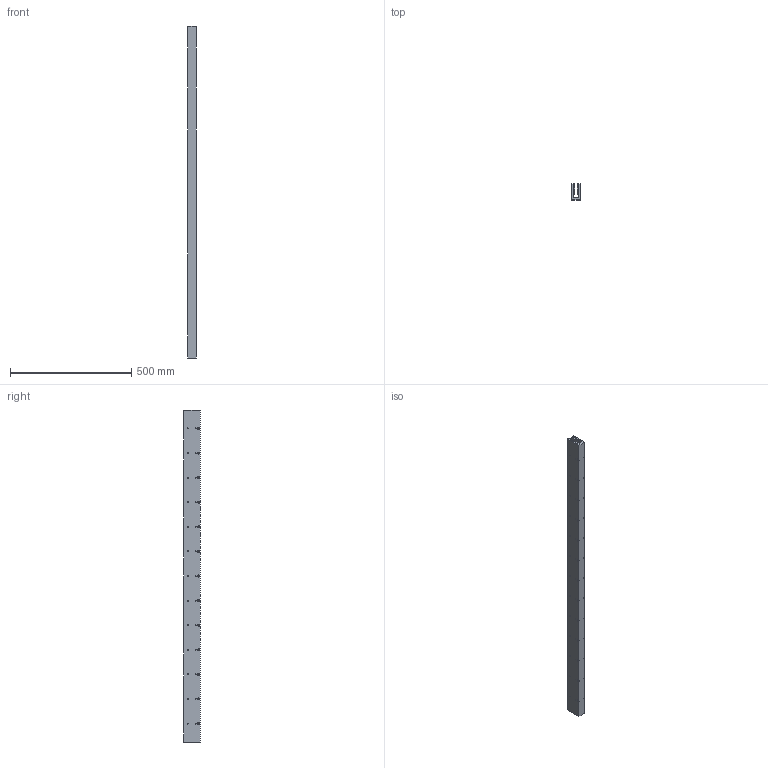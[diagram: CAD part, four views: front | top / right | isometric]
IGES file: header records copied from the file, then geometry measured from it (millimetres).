
Global section: file name: No Iges File Name specified; native system: Autodesk Inventor 2009; preprocessor: AutoDesk Inventor Iges Exporter R2009; author: je17857; date: 20091116.111721; units: inch
Bounding box: 34.29 x 67.31 x 1371.6 mm (x, y, z)
Volume: 2051515.8 mm3; surface area: 515463.4 mm2
Topology: 1 solids, 1 shells, 694 faces, 1650 edges, 1100 vertices
Faces by surface type: plane 486, bspline 208
